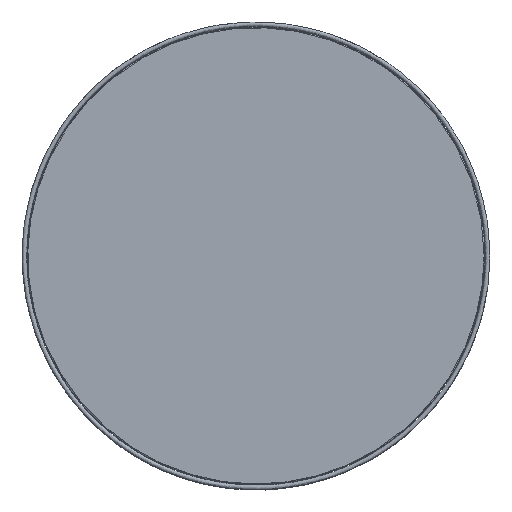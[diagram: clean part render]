
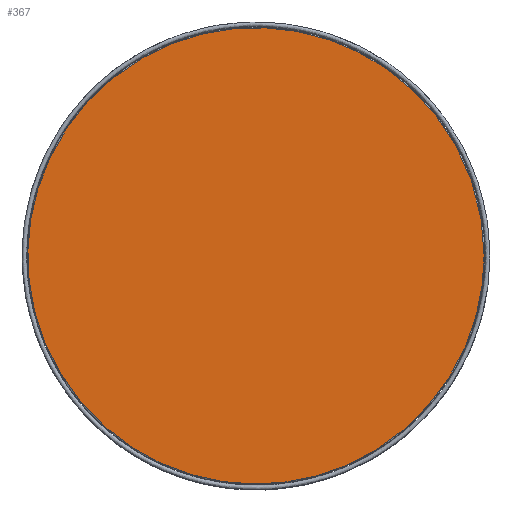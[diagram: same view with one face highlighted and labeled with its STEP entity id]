
A CAD part, top view. The second image highlights one B-rep face of the part: STEP entity #367.
In plain terms, the highlighted free-form (B-spline) face has degree [1, 1] with [2, 2] control points.
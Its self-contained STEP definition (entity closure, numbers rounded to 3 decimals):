
#96=B_SPLINE_SURFACE_WITH_KNOTS('',1,1,((#7846,#7847),(#7848,#7849)),
 .UNSPECIFIED.,.F.,.F.,.F.,(2,2),(2,2),(-675.,75.),(-375.,375.),
 .UNSPECIFIED.);
#367=ADVANCED_FACE('',(#501),#96,.T.);
#501=FACE_OUTER_BOUND('',#635,.T.);
#635=EDGE_LOOP('',(#907));
#907=ORIENTED_EDGE('',*,*,#1947,.T.);
#1185=PCURVE('',#96,#1463);
#1192=PCURVE('',#2305,#1470);
#1463=DEFINITIONAL_REPRESENTATION('',(#2166),#7975);
#1470=DEFINITIONAL_REPRESENTATION('',(#1670),#7975);
#1670=B_SPLINE_CURVE_WITH_KNOTS('',1,(#7970,#7971),.UNSPECIFIED.,.F.,.F.,
(2,2),(0.,1878.672),.UNSPECIFIED.);
#1808=SURFACE_CURVE('',#2165,(#1185,#1192),.PCURVE_S1.);
#1947=EDGE_CURVE('',#2257,#2257,#1808,.T.);
#2165=(
BOUNDED_CURVE()
B_SPLINE_CURVE(2,(#7936,#7937,#7938,#7939,#7940,#7941,#7942,#7943,#7944),
 .UNSPECIFIED.,.T.,.F.)
B_SPLINE_CURVE_WITH_KNOTS((3,2,2,2,3),(0.,469.668,939.336,
1409.004,1878.672),.UNSPECIFIED.)
CURVE()
GEOMETRIC_REPRESENTATION_ITEM()
RATIONAL_B_SPLINE_CURVE((1.,0.707,1.,0.707,1.,0.707,
1.,0.707,1.))
REPRESENTATION_ITEM('')
);
#2166=(
BOUNDED_CURVE()
B_SPLINE_CURVE(2,(#7945,#7946,#7947,#7948,#7949,#7950,#7951,#7952,#7953),
 .UNSPECIFIED.,.T.,.F.)
B_SPLINE_CURVE_WITH_KNOTS((3,2,2,2,3),(0.,469.668,939.336,
1409.004,1878.672),.UNSPECIFIED.)
CURVE()
GEOMETRIC_REPRESENTATION_ITEM()
RATIONAL_B_SPLINE_CURVE((1.,0.707,1.,0.707,1.,0.707,
1.,0.707,1.))
REPRESENTATION_ITEM('')
);
#2257=VERTEX_POINT('',#7889);
#2305=(
BOUNDED_SURFACE()
B_SPLINE_SURFACE(2,1,((#7868,#7869),(#7870,#7871),(#7872,#7873),(#7874,
#7875),(#7876,#7877),(#7878,#7879),(#7880,#7881),(#7882,#7883),(#7884,#7885)),
 .UNSPECIFIED.,.T.,.F.,.F.)
B_SPLINE_SURFACE_WITH_KNOTS((3,2,2,2,3),(2,2),(0.,469.668,939.336,
1409.004,1878.672),(0.,1.),.UNSPECIFIED.)
GEOMETRIC_REPRESENTATION_ITEM()
RATIONAL_B_SPLINE_SURFACE(((1.,1.),(0.707,0.707),
(1.,1.),(0.707,0.707),(1.,1.),(0.707,
0.707),(1.,1.),(0.707,0.707),(1.,1.)))
REPRESENTATION_ITEM('')
SURFACE()
);
#7846=CARTESIAN_POINT('',(-375.,-375.,350.));
#7847=CARTESIAN_POINT('',(-375.,375.,350.));
#7848=CARTESIAN_POINT('',(375.,-375.,350.));
#7849=CARTESIAN_POINT('',(375.,375.,350.));
#7868=CARTESIAN_POINT('',(300.,0.,349.));
#7869=CARTESIAN_POINT('',(299.,0.,350.));
#7870=CARTESIAN_POINT('',(300.,300.,349.));
#7871=CARTESIAN_POINT('',(299.,299.,350.));
#7872=CARTESIAN_POINT('',(0.,300.,349.));
#7873=CARTESIAN_POINT('',(0.,299.,350.));
#7874=CARTESIAN_POINT('',(-300.,300.,349.));
#7875=CARTESIAN_POINT('',(-299.,299.,350.));
#7876=CARTESIAN_POINT('',(-300.,0.,349.));
#7877=CARTESIAN_POINT('',(-299.,0.,350.));
#7878=CARTESIAN_POINT('',(-300.,-300.,349.));
#7879=CARTESIAN_POINT('',(-299.,-299.,350.));
#7880=CARTESIAN_POINT('',(0.,-300.,349.));
#7881=CARTESIAN_POINT('',(0.,-299.,350.));
#7882=CARTESIAN_POINT('',(300.,-300.,349.));
#7883=CARTESIAN_POINT('',(299.,-299.,350.));
#7884=CARTESIAN_POINT('',(300.,0.,349.));
#7885=CARTESIAN_POINT('',(299.,0.,350.));
#7889=CARTESIAN_POINT('',(299.,0.,350.));
#7936=CARTESIAN_POINT('',(299.,0.,350.));
#7937=CARTESIAN_POINT('',(299.,299.,350.));
#7938=CARTESIAN_POINT('',(0.,299.,350.));
#7939=CARTESIAN_POINT('',(-299.,299.,350.));
#7940=CARTESIAN_POINT('',(-299.,0.,350.));
#7941=CARTESIAN_POINT('',(-299.,-299.,350.));
#7942=CARTESIAN_POINT('',(0.,-299.,350.));
#7943=CARTESIAN_POINT('',(299.,-299.,350.));
#7944=CARTESIAN_POINT('',(299.,0.,350.));
#7945=CARTESIAN_POINT('',(-1.,0.));
#7946=CARTESIAN_POINT('',(-1.,299.));
#7947=CARTESIAN_POINT('',(-300.,299.));
#7948=CARTESIAN_POINT('',(-599.,299.));
#7949=CARTESIAN_POINT('',(-599.,0.));
#7950=CARTESIAN_POINT('',(-599.,-299.));
#7951=CARTESIAN_POINT('',(-300.,-299.));
#7952=CARTESIAN_POINT('',(-1.,-299.));
#7953=CARTESIAN_POINT('',(-1.,0.));
#7970=CARTESIAN_POINT('',(0.,1.));
#7971=CARTESIAN_POINT('',(1878.672,1.));
#7975=(
GEOMETRIC_REPRESENTATION_CONTEXT(2)
PARAMETRIC_REPRESENTATION_CONTEXT()
REPRESENTATION_CONTEXT('pspace','')
);
